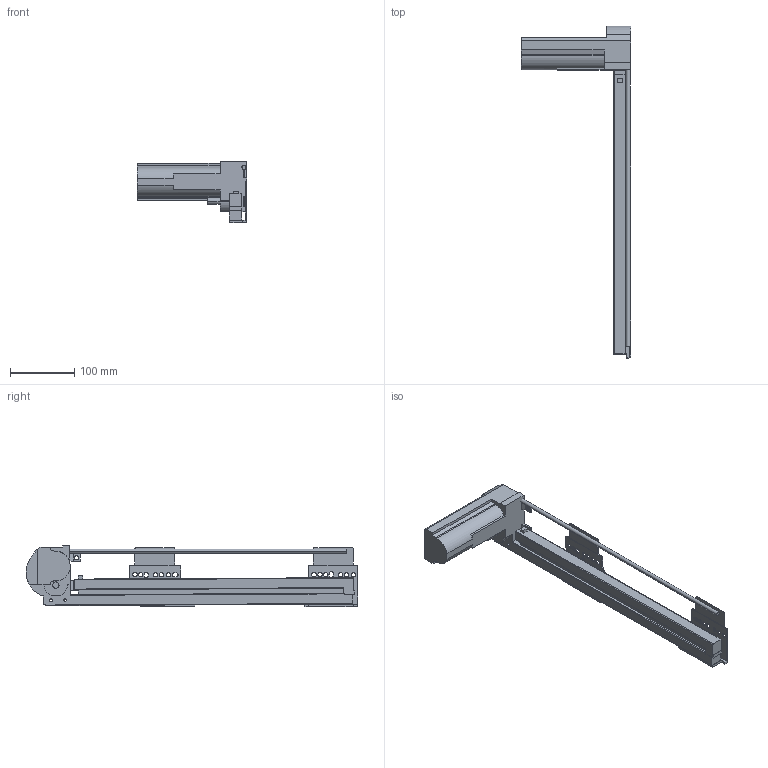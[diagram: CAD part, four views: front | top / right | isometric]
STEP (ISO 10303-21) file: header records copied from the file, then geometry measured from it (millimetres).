
FILE_DESCRIPTION (( 'STEP AP214' ), '1' );
FILE_NAME ('_IMOS_NOVA-Pro_Sensotronic_KS_P907_RE_NL-450_EB29mm.step', '2010-07-23T08:19:59', ( 'grass' ), ( '' ), 'SwSTEP 2.0', 'SolidWorks 2009', '' );
FILE_SCHEMA (( 'AUTOMOTIVE_DESIGN' ));
Length unit declared in the file: millimetre
Products named in the file (1): _IMOS_NOVA-Pro_Sensotronic_KS_P907_RE_NL-450_EB29mm
Bounding box: 169.95 x 516.61 x 95.04 mm (x, y, z)
Volume: 840201.2 mm3; surface area: 156053.7 mm2
Topology: 3 solids, 3 shells, 194 faces, 554 edges, 368 vertices
Faces by surface type: plane 119, cylinder 75
Entity records: 6477 total; most frequent: CARTESIAN_POINT 1129, ORIENTED_EDGE 1108, DIRECTION 1095, EDGE_CURVE 554, LINE 395, VECTOR 395, VERTEX_POINT 368, AXIS2_PLACEMENT_3D 350
